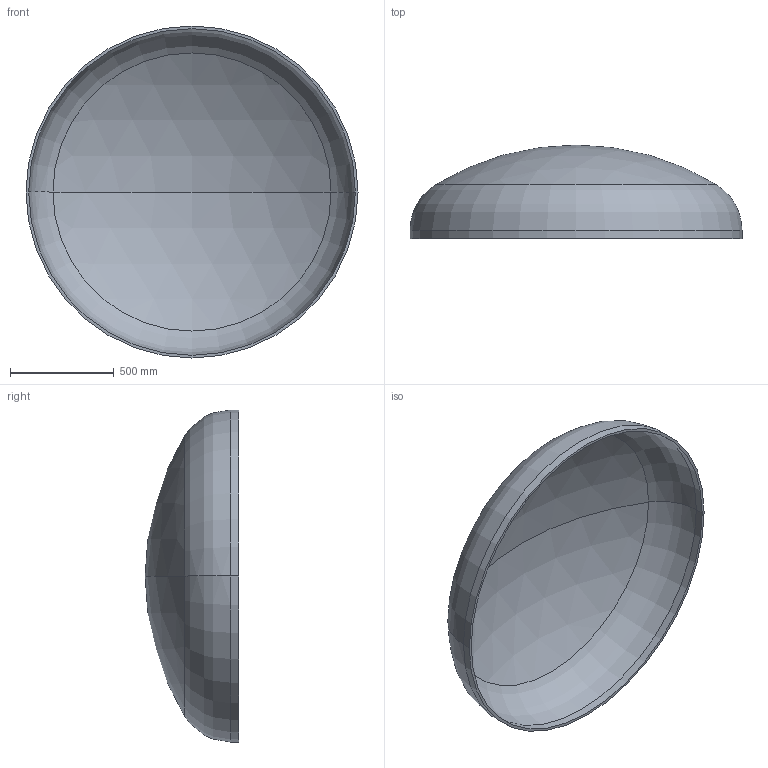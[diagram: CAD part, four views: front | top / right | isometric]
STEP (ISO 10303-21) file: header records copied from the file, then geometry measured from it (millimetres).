
FILE_DESCRIPTION (( 'STEP AP203' ), '1' );
FILE_NAME ('DIN 28013 Korbbogenform_-_Boden DIN 28013 - 1600 x 40 - I - s=13.step', '2016-07-01T11:05:36', ( '' ), ( '' ), 'SwSTEP 2.0', 'SolidWorks 2013', '' );
FILE_SCHEMA (( 'CONFIG_CONTROL_DESIGN' ));
Length unit declared in the file: millimetre
Products named in the file (1): DIN 28013 Korbbogenform_-_Boden DIN 28013 - 1600 x 40 - I - s=13
Bounding box: 1600 x 451.26 x 1600 mm (x, y, z)
Volume: 38366919 mm3; surface area: 5967768.8 mm2
Topology: 1 solids, 1 shells, 13 faces, 24 edges, 14 vertices
Faces by surface type: torus 4, cylinder 4, sphere 4, plane 1
Entity records: 407 total; most frequent: DIRECTION 72, CARTESIAN_POINT 52, ORIENTED_EDGE 48, AXIS2_PLACEMENT_3D 34, EDGE_CURVE 24, CIRCLE 20, VERTEX_POINT 14, EDGE_LOOP 14
